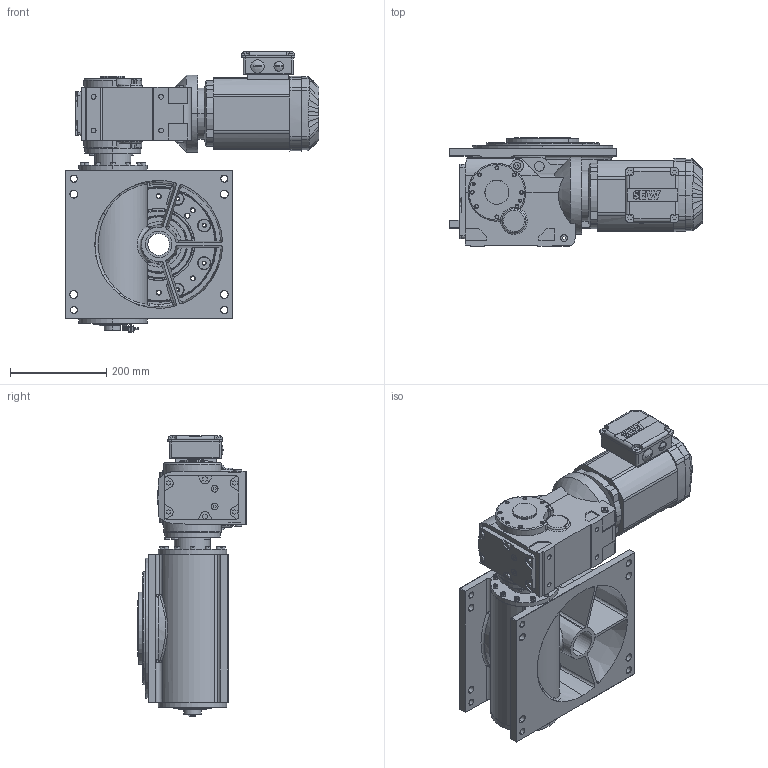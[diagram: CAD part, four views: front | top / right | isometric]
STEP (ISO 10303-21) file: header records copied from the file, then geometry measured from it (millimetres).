
FILE_DESCRIPTION (( 'STEP AP214' ), '1' );
FILE_NAME ('M235_SEW_KA47DRE80M4_D1_08.STEP', '2020-06-17T05:16:49', ( '' ), ( '' ), 'SwSTEP 2.0', 'SolidWorks 2020', '' );
FILE_SCHEMA (( 'AUTOMOTIVE_DESIGN' ));
Length unit declared in the file: millimetre
Products named in the file (1): M235_SEW_KA47DRE80M4_D1_08
Bounding box: 526 x 226 x 581.96 mm (x, y, z)
Surface area: 1137444.5 mm2 (no closed solid volume)
Topology: 0 solids, 85 shells, 1582 faces, 4817 edges, 3243 vertices
Faces by surface type: plane 612, cylinder 499, cone 238, bspline 141, torus 76, sphere 16
Entity records: 81950 total; most frequent: CARTESIAN_POINT 22241, DIRECTION 8901, ORIENTED_EDGE 8189, EDGE_CURVE 4785, AXIS2_PLACEMENT_3D 3264, VERTEX_POINT 3243, LINE 2373, VECTOR 2373
